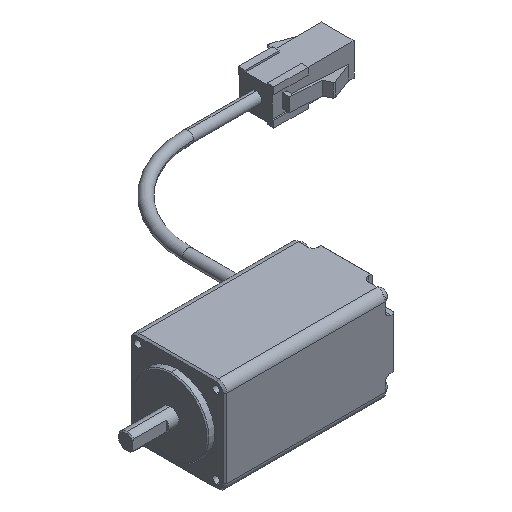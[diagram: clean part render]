
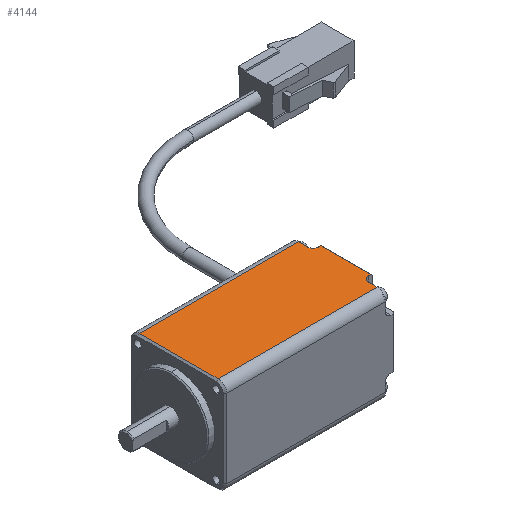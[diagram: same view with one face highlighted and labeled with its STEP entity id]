
A CAD part, isometric view. The second image highlights one B-rep face of the part: STEP entity #4144.
In plain terms, the highlighted planar face has unit normal (0, 0, 1) as drawn and (-1, 0, 0) by its records, which use the part's own axes.
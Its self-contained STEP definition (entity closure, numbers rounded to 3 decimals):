
#234 = VERTEX_POINT ( 'NONE', #3616 ) ;
#308 = VECTOR ( 'NONE', #8045, 1000. ) ;
#379 = VECTOR ( 'NONE', #7201, 1000. ) ;
#441 = VERTEX_POINT ( 'NONE', #3170 ) ;
#479 = EDGE_CURVE ( 'NONE', #1270, #7999, #6232, .T. ) ;
#541 = EDGE_CURVE ( 'NONE', #234, #441, #5135, .T. ) ;
#583 = LINE ( 'NONE', #2805, #379 ) ;
#744 = ORIENTED_EDGE ( 'NONE', *, *, #2981, .T. ) ;
#800 = DIRECTION ( 'NONE',  ( 0., -1., 0. ) ) ;
#1009 = PLANE ( 'NONE',  #3630 ) ;
#1035 = EDGE_CURVE ( 'NONE', #2217, #3287, #5321, .T. ) ;
#1215 = CARTESIAN_POINT ( 'NONE',  ( 45.751, 182.849, 26.5 ) ) ;
#1270 = VERTEX_POINT ( 'NONE', #5671 ) ;
#1413 = VECTOR ( 'NONE', #2413, 1000. ) ;
#1618 = DIRECTION ( 'NONE',  ( 1., 0., 0. ) ) ;
#1647 = ORIENTED_EDGE ( 'NONE', *, *, #479, .F. ) ;
#1900 = CARTESIAN_POINT ( 'NONE',  ( 45.751, 182.849, 49.5 ) ) ;
#1923 = CARTESIAN_POINT ( 'NONE',  ( 45.751, 159.849, 49.5 ) ) ;
#2069 = CIRCLE ( 'NONE', #6543, 1.5 ) ;
#2113 = VERTEX_POINT ( 'NONE', #6253 ) ;
#2217 = VERTEX_POINT ( 'NONE', #5731 ) ;
#2268 = DIRECTION ( 'NONE',  ( 0., 0., 1. ) ) ;
#2300 = CARTESIAN_POINT ( 'NONE',  ( 45.751, 159.849, 26.5 ) ) ;
#2413 = DIRECTION ( 'NONE',  ( 0., 0., 1. ) ) ;
#2600 = CARTESIAN_POINT ( 'NONE',  ( 45.751, 164.049, 0.5 ) ) ;
#2669 = LINE ( 'NONE', #3589, #5618 ) ;
#2805 = CARTESIAN_POINT ( 'NONE',  ( 45.751, 185.349, 49.5 ) ) ;
#2920 = EDGE_CURVE ( 'NONE', #3287, #7999, #583, .T. ) ;
#2921 = DIRECTION ( 'NONE',  ( -1., 0., 0. ) ) ;
#2969 = DIRECTION ( 'NONE',  ( 0., -1., 0. ) ) ;
#2981 = EDGE_CURVE ( 'NONE', #2113, #234, #2069, .T. ) ;
#3170 = CARTESIAN_POINT ( 'NONE',  ( 45.751, 178.749, 0.5 ) ) ;
#3276 = FACE_OUTER_BOUND ( 'NONE', #6087, .T. ) ;
#3287 = VERTEX_POINT ( 'NONE', #1923 ) ;
#3390 = VERTEX_POINT ( 'NONE', #2600 ) ;
#3467 = VECTOR ( 'NONE', #7953, 1000. ) ;
#3512 = ORIENTED_EDGE ( 'NONE', *, *, #5386, .F. ) ;
#3562 = CARTESIAN_POINT ( 'NONE',  ( 45.751, 162.549, 1.3 ) ) ;
#3589 = CARTESIAN_POINT ( 'NONE',  ( 45.751, 171.349, 2.8 ) ) ;
#3607 = VECTOR ( 'NONE', #2268, 1000. ) ;
#3616 = CARTESIAN_POINT ( 'NONE',  ( 45.751, 178.749, 1.3 ) ) ;
#3630 = AXIS2_PLACEMENT_3D ( 'NONE', #6702, #2921, #7318 ) ;
#3678 = CARTESIAN_POINT ( 'NONE',  ( 45.751, 178.749, 26.5 ) ) ;
#3839 = VECTOR ( 'NONE', #6224, 1000. ) ;
#3970 = VECTOR ( 'NONE', #800, 1000. ) ;
#4144 = ADVANCED_FACE ( 'NONE', ( #3276 ), #1009, .T. ) ;
#4169 = DIRECTION ( 'NONE',  ( 0., 0., -1. ) ) ;
#4341 = ORIENTED_EDGE ( 'NONE', *, *, #1035, .T. ) ;
#4475 = ORIENTED_EDGE ( 'NONE', *, *, #6836, .T. ) ;
#4558 = CARTESIAN_POINT ( 'NONE',  ( 45.751, 164.049, 1.3 ) ) ;
#4662 = ORIENTED_EDGE ( 'NONE', *, *, #541, .T. ) ;
#4681 = EDGE_CURVE ( 'NONE', #6597, #2217, #2669, .T. ) ;
#5135 = LINE ( 'NONE', #3678, #308 ) ;
#5247 = EDGE_CURVE ( 'NONE', #6652, #6597, #6708, .T. ) ;
#5321 = LINE ( 'NONE', #2300, #3467 ) ;
#5374 = CARTESIAN_POINT ( 'NONE',  ( 45.751, 180.249, 1.3 ) ) ;
#5386 = EDGE_CURVE ( 'NONE', #2113, #1270, #7180, .T. ) ;
#5618 = VECTOR ( 'NONE', #2969, 1000. ) ;
#5643 = LINE ( 'NONE', #7046, #3970 ) ;
#5671 = CARTESIAN_POINT ( 'NONE',  ( 45.751, 182.849, 2.8 ) ) ;
#5685 = ORIENTED_EDGE ( 'NONE', *, *, #2920, .T. ) ;
#5731 = CARTESIAN_POINT ( 'NONE',  ( 45.751, 159.849, 2.8 ) ) ;
#6018 = DIRECTION ( 'NONE',  ( 0., 0., 1. ) ) ;
#6029 = CARTESIAN_POINT ( 'NONE',  ( 45.751, 164.049, 26.5 ) ) ;
#6087 = EDGE_LOOP ( 'NONE', ( #4341, #5685, #1647, #3512, #744, #4662, #7196, #4475, #6759, #6571 ) ) ;
#6224 = DIRECTION ( 'NONE',  ( 0., 1., 0. ) ) ;
#6232 = LINE ( 'NONE', #1215, #1413 ) ;
#6253 = CARTESIAN_POINT ( 'NONE',  ( 45.751, 180.249, 2.8 ) ) ;
#6409 = CARTESIAN_POINT ( 'NONE',  ( 45.751, 162.549, 2.8 ) ) ;
#6543 = AXIS2_PLACEMENT_3D ( 'NONE', #5374, #1618, #6018 ) ;
#6571 = ORIENTED_EDGE ( 'NONE', *, *, #4681, .T. ) ;
#6597 = VERTEX_POINT ( 'NONE', #6409 ) ;
#6652 = VERTEX_POINT ( 'NONE', #4558 ) ;
#6702 = CARTESIAN_POINT ( 'NONE',  ( 45.751, 185.349, 0. ) ) ;
#6708 = CIRCLE ( 'NONE', #7035, 1.5 ) ;
#6759 = ORIENTED_EDGE ( 'NONE', *, *, #5247, .T. ) ;
#6836 = EDGE_CURVE ( 'NONE', #3390, #6652, #6972, .T. ) ;
#6972 = LINE ( 'NONE', #6029, #3607 ) ;
#7035 = AXIS2_PLACEMENT_3D ( 'NONE', #3562, #7946, #4169 ) ;
#7046 = CARTESIAN_POINT ( 'NONE',  ( 45.751, 171.349, 0.5 ) ) ;
#7180 = LINE ( 'NONE', #7459, #3839 ) ;
#7196 = ORIENTED_EDGE ( 'NONE', *, *, #7560, .T. ) ;
#7201 = DIRECTION ( 'NONE',  ( 0., 1., 0. ) ) ;
#7318 = DIRECTION ( 'NONE',  ( 0., -1., 0. ) ) ;
#7459 = CARTESIAN_POINT ( 'NONE',  ( 45.751, 182.734, 2.8 ) ) ;
#7560 = EDGE_CURVE ( 'NONE', #441, #3390, #5643, .T. ) ;
#7946 = DIRECTION ( 'NONE',  ( 1., 0., 0. ) ) ;
#7953 = DIRECTION ( 'NONE',  ( 0., 0., 1. ) ) ;
#7999 = VERTEX_POINT ( 'NONE', #1900 ) ;
#8045 = DIRECTION ( 'NONE',  ( 0., 0., -1. ) ) ;
